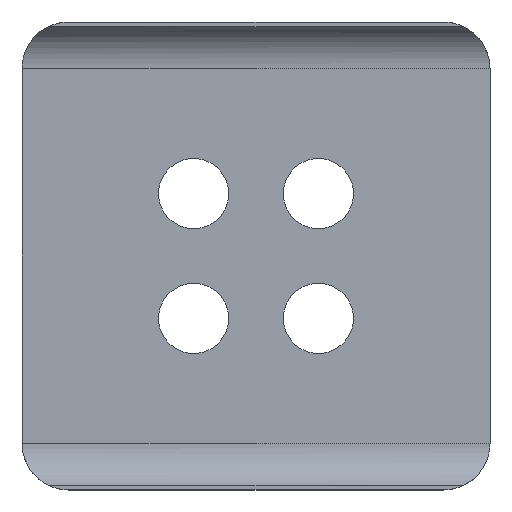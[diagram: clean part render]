
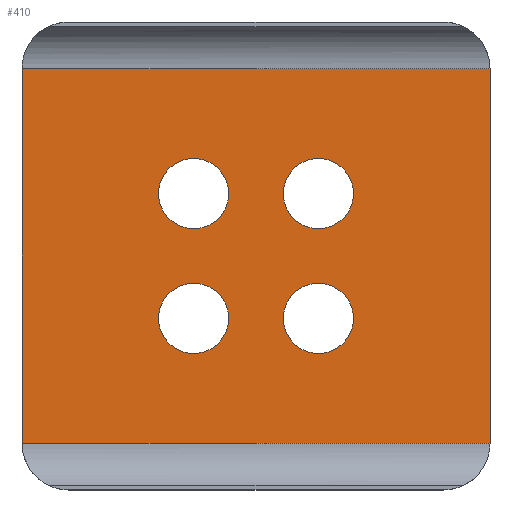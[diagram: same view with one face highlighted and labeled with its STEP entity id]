
A CAD part, front view. The second image highlights one B-rep face of the part: STEP entity #410.
In plain terms, the highlighted planar face has unit normal (0, -1, 0).
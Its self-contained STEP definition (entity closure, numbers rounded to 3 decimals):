
#16 = EDGE_CURVE ( 'NONE', #291, #312, #723, .T. ) ;
#33 = EDGE_LOOP ( 'NONE', ( #880 ) ) ;
#48 = FACE_BOUND ( 'NONE', #969, .T. ) ;
#57 = VERTEX_POINT ( 'NONE', #1086 ) ;
#59 = AXIS2_PLACEMENT_3D ( 'NONE', #538, #1028, #612 ) ;
#117 = FACE_BOUND ( 'NONE', #33, .T. ) ;
#122 = CARTESIAN_POINT ( 'NONE',  ( -4., -3., -4. ) ) ;
#123 = DIRECTION ( 'NONE',  ( -1., 0., 0. ) ) ;
#155 = CARTESIAN_POINT ( 'NONE',  ( -4., -3., -6.25 ) ) ;
#162 = ORIENTED_EDGE ( 'NONE', *, *, #325, .F. ) ;
#163 = CIRCLE ( 'NONE', #59, 2.25 ) ;
#207 = EDGE_CURVE ( 'NONE', #57, #57, #163, .T. ) ;
#252 = CIRCLE ( 'NONE', #489, 2.25 ) ;
#257 = DIRECTION ( 'NONE',  ( 0., 0., -1. ) ) ;
#288 = VERTEX_POINT ( 'NONE', #777 ) ;
#290 = DIRECTION ( 'NONE',  ( 0., 0., -1. ) ) ;
#291 = VERTEX_POINT ( 'NONE', #862 ) ;
#306 = CIRCLE ( 'NONE', #456, 2.25 ) ;
#312 = VERTEX_POINT ( 'NONE', #901 ) ;
#325 = EDGE_CURVE ( 'NONE', #487, #487, #380, .T. ) ;
#329 = VERTEX_POINT ( 'NONE', #155 ) ;
#337 = LINE ( 'NONE', #682, #490 ) ;
#356 = VECTOR ( 'NONE', #123, 1000. ) ;
#380 = CIRCLE ( 'NONE', #1038, 2.25 ) ;
#387 = EDGE_LOOP ( 'NONE', ( #581 ) ) ;
#392 = EDGE_LOOP ( 'NONE', ( #860, #518, #532, #963 ) ) ;
#393 = FACE_OUTER_BOUND ( 'NONE', #392, .T. ) ;
#398 = EDGE_CURVE ( 'NONE', #329, #329, #252, .T. ) ;
#410 = ADVANCED_FACE ( 'NONE', ( #475, #48, #393, #1071, #117 ), #651, .F. ) ;
#456 = AXIS2_PLACEMENT_3D ( 'NONE', #899, #737, #642 ) ;
#465 = CARTESIAN_POINT ( 'NONE',  ( 15., -3., 12. ) ) ;
#469 = DIRECTION ( 'NONE',  ( 0., -1., 0. ) ) ;
#475 = FACE_BOUND ( 'NONE', #668, .T. ) ;
#487 = VERTEX_POINT ( 'NONE', #666 ) ;
#489 = AXIS2_PLACEMENT_3D ( 'NONE', #122, #469, #984 ) ;
#490 = VECTOR ( 'NONE', #877, 1000. ) ;
#518 = ORIENTED_EDGE ( 'NONE', *, *, #659, .F. ) ;
#519 = EDGE_CURVE ( 'NONE', #312, #573, #843, .T. ) ;
#532 = ORIENTED_EDGE ( 'NONE', *, *, #587, .F. ) ;
#538 = CARTESIAN_POINT ( 'NONE',  ( 4., -3., -4. ) ) ;
#548 = DIRECTION ( 'NONE',  ( 0., -1., 0. ) ) ;
#562 = DIRECTION ( 'NONE',  ( 0., 0., 1. ) ) ;
#573 = VERTEX_POINT ( 'NONE', #599 ) ;
#581 = ORIENTED_EDGE ( 'NONE', *, *, #398, .F. ) ;
#587 = EDGE_CURVE ( 'NONE', #291, #288, #609, .T. ) ;
#599 = CARTESIAN_POINT ( 'NONE',  ( -15., -3., -12. ) ) ;
#609 = LINE ( 'NONE', #698, #903 ) ;
#612 = DIRECTION ( 'NONE',  ( 0., 0., -1. ) ) ;
#642 = DIRECTION ( 'NONE',  ( 0., 0., -1. ) ) ;
#647 = CARTESIAN_POINT ( 'NONE',  ( 15., -3., 12. ) ) ;
#651 = PLANE ( 'NONE',  #793 ) ;
#659 = EDGE_CURVE ( 'NONE', #288, #573, #337, .T. ) ;
#661 = CARTESIAN_POINT ( 'NONE',  ( 4., -3., 1.75 ) ) ;
#666 = CARTESIAN_POINT ( 'NONE',  ( -4., -3., 1.75 ) ) ;
#668 = EDGE_LOOP ( 'NONE', ( #907 ) ) ;
#682 = CARTESIAN_POINT ( 'NONE',  ( 15., -3., -12. ) ) ;
#698 = CARTESIAN_POINT ( 'NONE',  ( 15., -3., 12. ) ) ;
#723 = LINE ( 'NONE', #647, #356 ) ;
#737 = DIRECTION ( 'NONE',  ( 0., -1., 0. ) ) ;
#759 = EDGE_CURVE ( 'NONE', #1005, #1005, #306, .T. ) ;
#777 = CARTESIAN_POINT ( 'NONE',  ( 15., -3., -12. ) ) ;
#793 = AXIS2_PLACEMENT_3D ( 'NONE', #465, #988, #562 ) ;
#843 = LINE ( 'NONE', #917, #1041 ) ;
#860 = ORIENTED_EDGE ( 'NONE', *, *, #519, .T. ) ;
#862 = CARTESIAN_POINT ( 'NONE',  ( 15., -3., 12. ) ) ;
#877 = DIRECTION ( 'NONE',  ( -1., 0., 0. ) ) ;
#880 = ORIENTED_EDGE ( 'NONE', *, *, #759, .F. ) ;
#899 = CARTESIAN_POINT ( 'NONE',  ( 4., -3., 4. ) ) ;
#901 = CARTESIAN_POINT ( 'NONE',  ( -15., -3., 12. ) ) ;
#903 = VECTOR ( 'NONE', #257, 1000. ) ;
#907 = ORIENTED_EDGE ( 'NONE', *, *, #207, .F. ) ;
#917 = CARTESIAN_POINT ( 'NONE',  ( -15., -3., 12. ) ) ;
#963 = ORIENTED_EDGE ( 'NONE', *, *, #16, .T. ) ;
#969 = EDGE_LOOP ( 'NONE', ( #162 ) ) ;
#984 = DIRECTION ( 'NONE',  ( 0., 0., -1. ) ) ;
#988 = DIRECTION ( 'NONE',  ( 0., 1., 0. ) ) ;
#995 = CARTESIAN_POINT ( 'NONE',  ( -4., -3., 4. ) ) ;
#1005 = VERTEX_POINT ( 'NONE', #661 ) ;
#1028 = DIRECTION ( 'NONE',  ( 0., -1., 0. ) ) ;
#1038 = AXIS2_PLACEMENT_3D ( 'NONE', #995, #548, #290 ) ;
#1041 = VECTOR ( 'NONE', #1092, 1000. ) ;
#1071 = FACE_BOUND ( 'NONE', #387, .T. ) ;
#1086 = CARTESIAN_POINT ( 'NONE',  ( 4., -3., -6.25 ) ) ;
#1092 = DIRECTION ( 'NONE',  ( 0., 0., -1. ) ) ;
